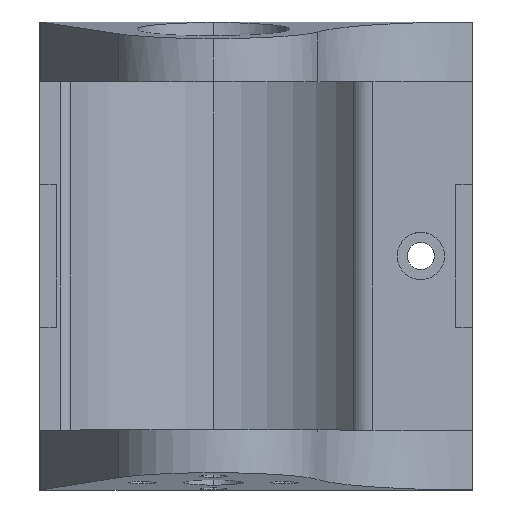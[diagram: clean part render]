
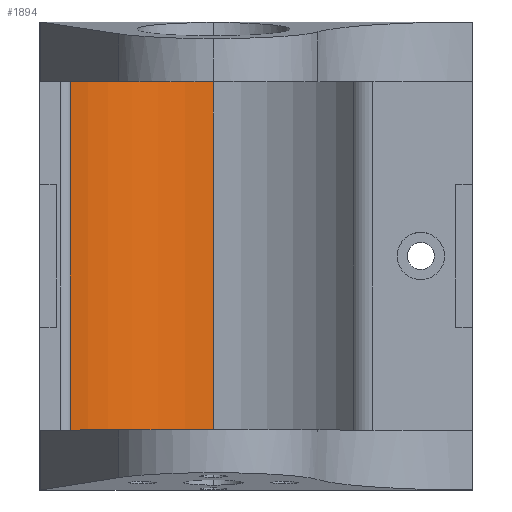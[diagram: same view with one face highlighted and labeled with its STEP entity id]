
A CAD part, top view. The second image highlights one B-rep face of the part: STEP entity #1894.
In plain terms, the highlighted cylindrical face has radius 14.25 mm (diameter 28.5 mm), a partial arc.
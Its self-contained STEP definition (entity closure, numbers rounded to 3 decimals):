
#69 = CARTESIAN_POINT ( 'NONE',  ( 0., -14.7, -14.25 ) ) ;
#93 = VECTOR ( 'NONE', #1328, 1000. ) ;
#109 = AXIS2_PLACEMENT_3D ( 'NONE', #2056, #2026, #320 ) ;
#111 = ORIENTED_EDGE ( 'NONE', *, *, #1061, .T. ) ;
#119 = DIRECTION ( 'NONE',  ( 0., 0., 1. ) ) ;
#186 = DIRECTION ( 'NONE',  ( 0., 0., -1. ) ) ;
#320 = DIRECTION ( 'NONE',  ( 0., 0., 1. ) ) ;
#379 = LINE ( 'NONE', #935, #93 ) ;
#407 = VERTEX_POINT ( 'NONE', #69 ) ;
#438 = DIRECTION ( 'NONE',  ( 0., 1., 0. ) ) ;
#550 = CARTESIAN_POINT ( 'NONE',  ( 0., 55.005, 0. ) ) ;
#616 = CIRCLE ( 'NONE', #857, 14.25 ) ;
#710 = LINE ( 'NONE', #2247, #2239 ) ;
#788 = VERTEX_POINT ( 'NONE', #1151 ) ;
#797 = CARTESIAN_POINT ( 'NONE',  ( -12.074, -14.7, -7.569 ) ) ;
#857 = AXIS2_PLACEMENT_3D ( 'NONE', #884, #438, #119 ) ;
#884 = CARTESIAN_POINT ( 'NONE',  ( 0., 14.7, 0. ) ) ;
#935 = CARTESIAN_POINT ( 'NONE',  ( 0., 55.005, -14.25 ) ) ;
#975 = ORIENTED_EDGE ( 'NONE', *, *, #2385, .F. ) ;
#980 = AXIS2_PLACEMENT_3D ( 'NONE', #550, #1286, #186 ) ;
#1061 = EDGE_CURVE ( 'NONE', #788, #1100, #710, .T. ) ;
#1100 = VERTEX_POINT ( 'NONE', #797 ) ;
#1123 = CARTESIAN_POINT ( 'NONE',  ( 0., 14.7, -14.25 ) ) ;
#1151 = CARTESIAN_POINT ( 'NONE',  ( -12.074, 14.7, -7.569 ) ) ;
#1213 = ORIENTED_EDGE ( 'NONE', *, *, #1605, .T. ) ;
#1286 = DIRECTION ( 'NONE',  ( 0., -1., 0. ) ) ;
#1328 = DIRECTION ( 'NONE',  ( 0., -1., 0. ) ) ;
#1352 = EDGE_CURVE ( 'NONE', #407, #1100, #1395, .T. ) ;
#1395 = CIRCLE ( 'NONE', #109, 14.25 ) ;
#1471 = FACE_OUTER_BOUND ( 'NONE', #2322, .T. ) ;
#1605 = EDGE_CURVE ( 'NONE', #1963, #788, #616, .T. ) ;
#1894 = ADVANCED_FACE ( 'NONE', ( #1471 ), #2282, .F. ) ;
#1963 = VERTEX_POINT ( 'NONE', #1123 ) ;
#2026 = DIRECTION ( 'NONE',  ( 0., 1., 0. ) ) ;
#2056 = CARTESIAN_POINT ( 'NONE',  ( 0., -14.7, 0. ) ) ;
#2059 = DIRECTION ( 'NONE',  ( 0., -1., 0. ) ) ;
#2095 = ORIENTED_EDGE ( 'NONE', *, *, #1352, .F. ) ;
#2239 = VECTOR ( 'NONE', #2059, 1000. ) ;
#2247 = CARTESIAN_POINT ( 'NONE',  ( -12.074, 55.005, -7.569 ) ) ;
#2282 = CYLINDRICAL_SURFACE ( 'NONE', #980, 14.25 ) ;
#2322 = EDGE_LOOP ( 'NONE', ( #975, #1213, #111, #2095 ) ) ;
#2385 = EDGE_CURVE ( 'NONE', #1963, #407, #379, .T. ) ;
